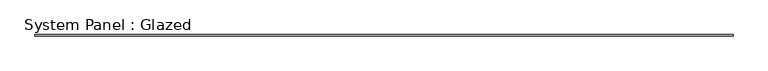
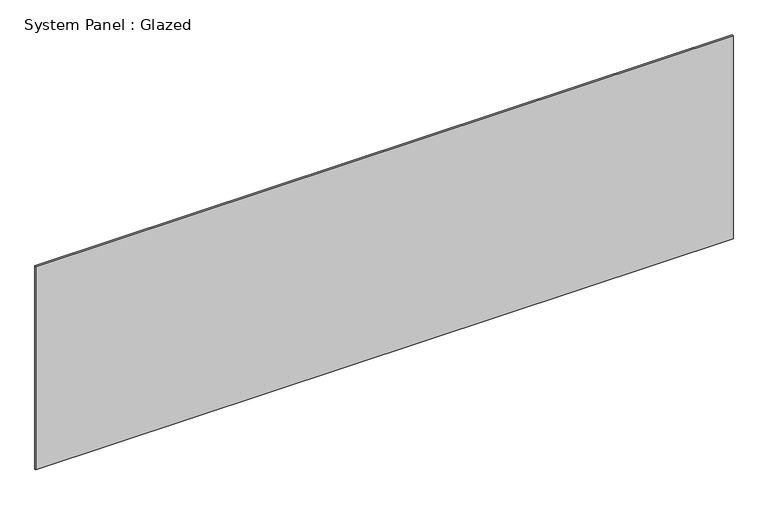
"""IFC4 building model written with IfcOpenShell, lengths in millimetres: plate geometry, System Panel : Glazed."""

from ifc_helpers import new_model, si_unit, origin, origin_with_axes, place, context, project, spatial, polyline, outline, extrude, source, transform, mapped, element, save


def system_panel_glazed_93393d4e(model_context):
    return source(origin(), model_context, "Body", "SweptSolid", [
        extrude(outline(polyline([(3034.7235074, 4.0), (-3034.7235074, 4.0), (-3034.7235074, 16.0), (3034.7235074, 16.0), (3034.7235074, 4.0)])), origin_with_axes(), (0.0, 0.0, 1.0), 1870.0),
    ])


if __name__ == "__main__":
    model = new_model("IFC4")
    model_context = context("Model", 3, world=origin())
    ifc_project = project(units=[si_unit("LENGTHUNIT", "METRE", prefix="MILLI")], contexts=[model_context])
    site = spatial("IfcSite", under=ifc_project)
    building = spatial("IfcBuilding", under=site)
    placement = place(None, origin())
    system_panel_glazed_shape = system_panel_glazed_93393d4e(model_context)
    element("IfcPlate", 1, ObjectType="System Panel : Glazed", at=placement, inside=building, context=model_context, shape_type="MappedRepresentation", body=[
        mapped(system_panel_glazed_shape, transform((0.0, 0.0, 0.0), x_axis=(1.0, 0.0, 0.0), y_axis=(0.0, 1.0, 0.0), z_axis=(0.0, 0.0, 1.0))),
    ])
    save(model, "model.ifc")
